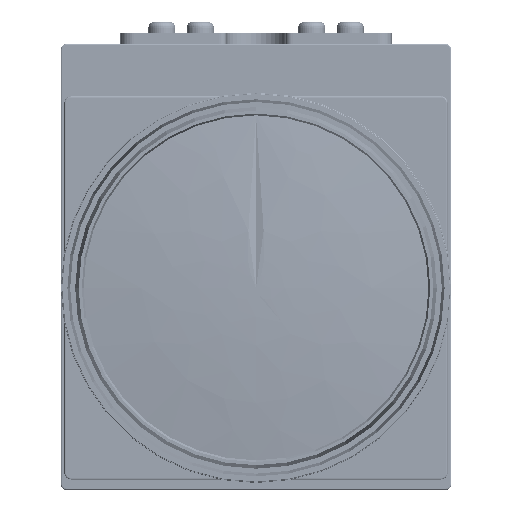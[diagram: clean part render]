
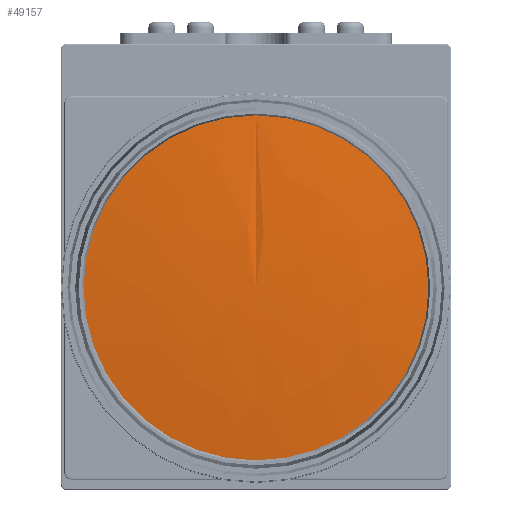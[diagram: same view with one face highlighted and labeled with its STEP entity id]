
A CAD part, left-side view. The second image highlights one B-rep face of the part: STEP entity #49157.
In plain terms, the highlighted free-form (B-spline) face has degree [3, 3] with [4, 7] control points.
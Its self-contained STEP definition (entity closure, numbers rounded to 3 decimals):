
#49157 = ADVANCED_FACE( '', ( #90043, #90044 ), #90045, .T. );
#90043 = FACE_BOUND( '', #130696, .T. );
#90044 = FACE_OUTER_BOUND( '', #130697, .T. );
#90045 = ( BOUNDED_SURFACE(  )B_SPLINE_SURFACE( 3, 3, ( ( #130700, #130701, #130702, #130703, #130704, #130705, #130706 ), ( #130707, #130708, #130709, #130710, #130711, #130712, #130713 ), ( #130714, #130715, #130716, #130717, #130718, #130719, #130720 ), ( #130721, #130722, #130723, #130724, #130725, #130726, #130727 ) ), .UNSPECIFIED., .F., .T., .F. )B_SPLINE_SURFACE_WITH_KNOTS( ( 4, 4 ), ( 4, 3, 4 ), ( 0., 6.283 ), ( -1.574, -1.517, -1.461 ), .UNSPECIFIED. )GEOMETRIC_REPRESENTATION_ITEM(  )RATIONAL_B_SPLINE_SURFACE( ( ( 1., 0.333, 0.333, 1., 0.333, 0.333, 1. ), ( 0.999, 0.333, 0.333, 0.999, 0.333, 0.333, 0.999 ), ( 0.999, 0.333, 0.333, 0.999, 0.333, 0.333, 0.999 ), ( 1., 0.333, 0.333, 1., 0.333, 0.333, 1. ) ) )REPRESENTATION_ITEM( '' )SURFACE(  ) );
#130696 = VERTEX_LOOP( '', #208051 );
#130697 = EDGE_LOOP( '', ( #208052 ) );
#130700 = CARTESIAN_POINT( '', ( 68.328, 0., 53.746 ) );
#130701 = CARTESIAN_POINT( '', ( 68.328, 49.492, 53.746 ) );
#130702 = CARTESIAN_POINT( '', ( 68.328, 49.492, 4.254 ) );
#130703 = CARTESIAN_POINT( '', ( 68.328, 0., 4.254 ) );
#130704 = CARTESIAN_POINT( '', ( 68.328, -49.492, 4.254 ) );
#130705 = CARTESIAN_POINT( '', ( 68.328, -49.492, 53.746 ) );
#130706 = CARTESIAN_POINT( '', ( 68.328, 0., 53.746 ) );
#130707 = CARTESIAN_POINT( '', ( 69.237, 0., 45.527 ) );
#130708 = CARTESIAN_POINT( '', ( 69.237, 33.053, 45.527 ) );
#130709 = CARTESIAN_POINT( '', ( 69.237, 33.053, 12.473 ) );
#130710 = CARTESIAN_POINT( '', ( 69.237, 0., 12.473 ) );
#130711 = CARTESIAN_POINT( '', ( 69.237, -33.053, 12.473 ) );
#130712 = CARTESIAN_POINT( '', ( 69.237, -33.053, 45.527 ) );
#130713 = CARTESIAN_POINT( '', ( 69.237, 0., 45.527 ) );
#130714 = CARTESIAN_POINT( '', ( 69.678, 0., 37.269 ) );
#130715 = CARTESIAN_POINT( '', ( 69.678, 16.538, 37.269 ) );
#130716 = CARTESIAN_POINT( '', ( 69.678, 16.538, 20.731 ) );
#130717 = CARTESIAN_POINT( '', ( 69.678, 0., 20.731 ) );
#130718 = CARTESIAN_POINT( '', ( 69.678, -16.538, 20.731 ) );
#130719 = CARTESIAN_POINT( '', ( 69.678, -16.538, 37.269 ) );
#130720 = CARTESIAN_POINT( '', ( 69.678, 0., 37.269 ) );
#130721 = CARTESIAN_POINT( '', ( 69.65, 0., 29. ) );
#130722 = CARTESIAN_POINT( '', ( 69.65, 0., 29. ) );
#130723 = CARTESIAN_POINT( '', ( 69.65, 0., 29. ) );
#130724 = CARTESIAN_POINT( '', ( 69.65, 0., 29. ) );
#130725 = CARTESIAN_POINT( '', ( 69.65, 0., 29. ) );
#130726 = CARTESIAN_POINT( '', ( 69.65, 0., 29. ) );
#130727 = CARTESIAN_POINT( '', ( 69.65, 0., 29. ) );
#208051 = VERTEX_POINT( '', #247492 );
#208052 = ORIENTED_EDGE( '', *, *, #232949, .F. );
#232949 = EDGE_CURVE( '', #272295, #272295, #272296, .T. );
#247492 = CARTESIAN_POINT( '', ( 69.65, 0., 29. ) );
#272295 = VERTEX_POINT( '', #325756 );
#272296 = CIRCLE( '', #325757, 24.746 );
#325756 = CARTESIAN_POINT( '', ( 68.328, 0., 53.746 ) );
#325757 = AXIS2_PLACEMENT_3D( '', #369818, #369819, #369820 );
#369818 = CARTESIAN_POINT( '', ( 68.328, 0., 29. ) );
#369819 = DIRECTION( '', ( -1., 0., 0. ) );
#369820 = DIRECTION( '', ( 0., 0., 1. ) );
